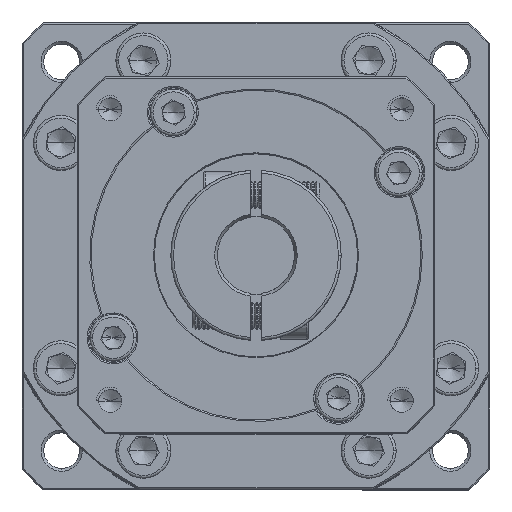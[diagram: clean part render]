
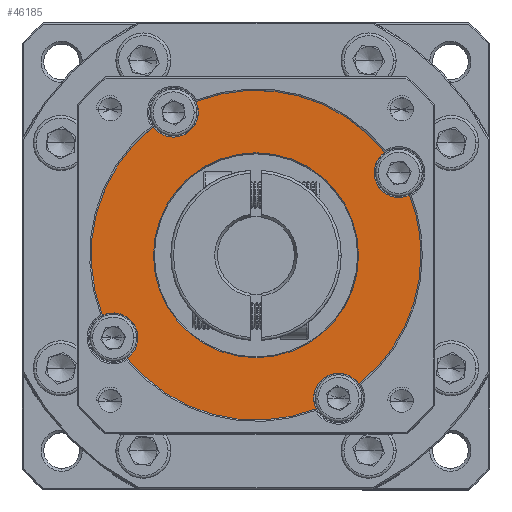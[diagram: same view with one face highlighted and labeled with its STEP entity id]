
A CAD part, top view. The second image highlights one B-rep face of the part: STEP entity #46185.
In plain terms, the highlighted planar face has unit normal (0, 0, 1).
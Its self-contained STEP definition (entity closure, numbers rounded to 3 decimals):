
#246 = CARTESIAN_POINT ( 'NONE',  ( -32.808, 56.745, -14.057 ) ) ;
#582 = EDGE_CURVE ( 'NONE', #37217, #73013, #26205, .T. ) ;
#719 = EDGE_CURVE ( 'NONE', #42660, #24522, #127793, .T. ) ;
#1705 = DIRECTION ( 'NONE',  ( 1., 0., 0. ) ) ;
#1932 = CARTESIAN_POINT ( 'NONE',  ( -9.363, 75.462, -14.057 ) ) ;
#3184 = AXIS2_PLACEMENT_3D ( 'NONE', #61424, #20518, #22217 ) ;
#4688 = DIRECTION ( 'NONE',  ( 1., 0., 0. ) ) ;
#5418 = EDGE_CURVE ( 'NONE', #37217, #33742, #19090, .T. ) ;
#5500 = CIRCLE ( 'NONE', #14590, 4.5 ) ;
#5971 = AXIS2_PLACEMENT_3D ( 'NONE', #87424, #117512, #4688 ) ;
#6294 = AXIS2_PLACEMENT_3D ( 'NONE', #246, #50457, #19973 ) ;
#10821 = VERTEX_POINT ( 'NONE', #22265 ) ;
#11052 = ORIENTED_EDGE ( 'NONE', *, *, #30852, .T. ) ;
#11721 = ORIENTED_EDGE ( 'NONE', *, *, #38755, .F. ) ;
#12598 = DIRECTION ( 'NONE',  ( 1., 0., 0. ) ) ;
#13786 = CARTESIAN_POINT ( 'NONE',  ( -43.753, 84.677, -14.057 ) ) ;
#14204 = DIRECTION ( 'NONE',  ( 1., 0., 0. ) ) ;
#14590 = AXIS2_PLACEMENT_3D ( 'NONE', #77074, #105932, #17274 ) ;
#15622 = DIRECTION ( 'NONE',  ( 1., 0., 0. ) ) ;
#15801 = CARTESIAN_POINT ( 'NONE',  ( -6.827, 71.745, -14.057 ) ) ;
#16061 = DIRECTION ( 'NONE',  ( 0., 0., -1. ) ) ;
#17274 = DIRECTION ( 'NONE',  ( 1., 0., 0. ) ) ;
#17505 = CARTESIAN_POINT ( 'NONE',  ( -43.308, 82.726, -14.057 ) ) ;
#17929 = ORIENTED_EDGE ( 'NONE', *, *, #31043, .T. ) ;
#18313 = AXIS2_PLACEMENT_3D ( 'NONE', #15801, #125539, #35921 ) ;
#18746 = CARTESIAN_POINT ( 'NONE',  ( -47.808, 82.726, -14.057 ) ) ;
#19090 = CIRCLE ( 'NONE', #123642, 4.5 ) ;
#19299 = CIRCLE ( 'NONE', #18313, 4.5 ) ;
#19368 = FACE_BOUND ( 'NONE', #121636, .T. ) ;
#19895 = ORIENTED_EDGE ( 'NONE', *, *, #77536, .F. ) ;
#19973 = DIRECTION ( 'NONE',  ( 1., 0., 0. ) ) ;
#20518 = DIRECTION ( 'NONE',  ( 0., 0., 1. ) ) ;
#22217 = DIRECTION ( 'NONE',  ( 1., 0., 0. ) ) ;
#22265 = CARTESIAN_POINT ( 'NONE',  ( -11.327, 71.745, -14.057 ) ) ;
#22471 = FACE_OUTER_BOUND ( 'NONE', #39215, .T. ) ;
#22971 = DIRECTION ( 'NONE',  ( 0., 0., 1. ) ) ;
#24047 = CIRCLE ( 'NONE', #109483, 4.5 ) ;
#24522 = VERTEX_POINT ( 'NONE', #41924 ) ;
#24683 = AXIS2_PLACEMENT_3D ( 'NONE', #37480, #16061, #15622 ) ;
#25578 = CARTESIAN_POINT ( 'NONE',  ( -32.808, 56.745, -14.057 ) ) ;
#26007 = DIRECTION ( 'NONE',  ( 1., 0., 0. ) ) ;
#26205 = CIRCLE ( 'NONE', #3184, 30. ) ;
#26880 = CARTESIAN_POINT ( 'NONE',  ( -32.808, 56.745, -14.057 ) ) ;
#28497 = AXIS2_PLACEMENT_3D ( 'NONE', #25578, #77076, #26007 ) ;
#30852 = EDGE_CURVE ( 'NONE', #24522, #42660, #86767, .T. ) ;
#31043 = EDGE_CURVE ( 'NONE', #61920, #111481, #122599, .T. ) ;
#33443 = CARTESIAN_POINT ( 'NONE',  ( -32.808, 56.745, -14.057 ) ) ;
#33742 = VERTEX_POINT ( 'NONE', #17505 ) ;
#35921 = DIRECTION ( 'NONE',  ( 1., 0., 0. ) ) ;
#36222 = CARTESIAN_POINT ( 'NONE',  ( -54.289, 41.745, -14.057 ) ) ;
#36482 = DIRECTION ( 'NONE',  ( 0., 0., 1. ) ) ;
#36931 = ORIENTED_EDGE ( 'NONE', *, *, #83150, .T. ) ;
#37217 = VERTEX_POINT ( 'NONE', #37250 ) ;
#37250 = CARTESIAN_POINT ( 'NONE',  ( -51.525, 80.19, -14.057 ) ) ;
#37480 = CARTESIAN_POINT ( 'NONE',  ( -32.808, 56.745, -14.057 ) ) ;
#38377 = DIRECTION ( 'NONE',  ( 0., 0., 1. ) ) ;
#38755 = EDGE_CURVE ( 'NONE', #10821, #111481, #5500, .T. ) ;
#39215 = EDGE_LOOP ( 'NONE', ( #119799, #84499, #42421, #122315, #36931, #17929, #11721, #62583, #42926, #19895, #55664, #83356, #55054 ) ) ;
#40790 = EDGE_CURVE ( 'NONE', #100746, #10821, #19299, .T. ) ;
#40862 = DIRECTION ( 'NONE',  ( 0., 0., 1. ) ) ;
#40886 = CARTESIAN_POINT ( 'NONE',  ( -22.308, 30.764, -14.057 ) ) ;
#41498 = AXIS2_PLACEMENT_3D ( 'NONE', #33443, #22971, #14204 ) ;
#41924 = CARTESIAN_POINT ( 'NONE',  ( -51.452, 56.745, -14.057 ) ) ;
#42421 = ORIENTED_EDGE ( 'NONE', *, *, #99564, .F. ) ;
#42660 = VERTEX_POINT ( 'NONE', #94914 ) ;
#42926 = ORIENTED_EDGE ( 'NONE', *, *, #91704, .T. ) ;
#43947 = DIRECTION ( 'NONE',  ( 1., 0., 0. ) ) ;
#46185 = ADVANCED_FACE ( 'NONE', ( #19368, #22471 ), #120132, .T. ) ;
#48849 = DIRECTION ( 'NONE',  ( 1., 0., 0. ) ) ;
#49462 = DIRECTION ( 'NONE',  ( 0., 0., 1. ) ) ;
#50457 = DIRECTION ( 'NONE',  ( 0., 0., 1. ) ) ;
#51884 = CIRCLE ( 'NONE', #41498, 30. ) ;
#55054 = ORIENTED_EDGE ( 'NONE', *, *, #67518, .F. ) ;
#55664 = ORIENTED_EDGE ( 'NONE', *, *, #5418, .F. ) ;
#57489 = CARTESIAN_POINT ( 'NONE',  ( -14.09, 33.3, -14.057 ) ) ;
#61424 = CARTESIAN_POINT ( 'NONE',  ( -32.808, 56.745, -14.057 ) ) ;
#61920 = VERTEX_POINT ( 'NONE', #69778 ) ;
#62371 = VERTEX_POINT ( 'NONE', #57489 ) ;
#62583 = ORIENTED_EDGE ( 'NONE', *, *, #40790, .F. ) ;
#63063 = CIRCLE ( 'NONE', #92185, 4.5 ) ;
#64374 = CIRCLE ( 'NONE', #5971, 4.5 ) ;
#64791 = CIRCLE ( 'NONE', #28497, 30. ) ;
#67518 = EDGE_CURVE ( 'NONE', #117629, #73013, #64374, .T. ) ;
#69176 = CARTESIAN_POINT ( 'NONE',  ( -47.808, 82.726, -14.057 ) ) ;
#69778 = CARTESIAN_POINT ( 'NONE',  ( -2.808, 56.745, -14.057 ) ) ;
#72417 = CARTESIAN_POINT ( 'NONE',  ( -32.808, 56.745, -14.057 ) ) ;
#72559 = AXIS2_PLACEMENT_3D ( 'NONE', #80848, #121873, #1705 ) ;
#73013 = VERTEX_POINT ( 'NONE', #128536 ) ;
#73758 = VERTEX_POINT ( 'NONE', #13786 ) ;
#73908 = EDGE_CURVE ( 'NONE', #120433, #125946, #64791, .T. ) ;
#76551 = DIRECTION ( 'NONE',  ( 1., 0., 0. ) ) ;
#76647 = DIRECTION ( 'NONE',  ( 1., 0., 0. ) ) ;
#77074 = CARTESIAN_POINT ( 'NONE',  ( -6.827, 71.745, -14.057 ) ) ;
#77076 = DIRECTION ( 'NONE',  ( 0., 0., 1. ) ) ;
#77536 = EDGE_CURVE ( 'NONE', #33742, #73758, #24047, .T. ) ;
#79320 = DIRECTION ( 'NONE',  ( 0., 0., 1. ) ) ;
#80848 = CARTESIAN_POINT ( 'NONE',  ( -32.808, 56.745, -14.057 ) ) ;
#81487 = CIRCLE ( 'NONE', #106400, 30. ) ;
#83150 = EDGE_CURVE ( 'NONE', #62371, #61920, #51884, .T. ) ;
#83356 = ORIENTED_EDGE ( 'NONE', *, *, #582, .T. ) ;
#84499 = ORIENTED_EDGE ( 'NONE', *, *, #73908, .T. ) ;
#86767 = CIRCLE ( 'NONE', #24683, 18.644 ) ;
#87424 = CARTESIAN_POINT ( 'NONE',  ( -58.789, 41.745, -14.057 ) ) ;
#89374 = DIRECTION ( 'NONE',  ( 1., 0., 0. ) ) ;
#89926 = CARTESIAN_POINT ( 'NONE',  ( -21.863, 28.813, -14.057 ) ) ;
#91092 = DIRECTION ( 'NONE',  ( 1., 0., 0. ) ) ;
#91512 = EDGE_CURVE ( 'NONE', #62371, #100736, #98799, .T. ) ;
#91704 = EDGE_CURVE ( 'NONE', #100746, #73758, #81487, .T. ) ;
#92185 = AXIS2_PLACEMENT_3D ( 'NONE', #121197, #40862, #91092 ) ;
#94914 = CARTESIAN_POINT ( 'NONE',  ( -14.164, 56.745, -14.057 ) ) ;
#97797 = AXIS2_PLACEMENT_3D ( 'NONE', #72417, #103861, #12598 ) ;
#98799 = CIRCLE ( 'NONE', #115595, 4.5 ) ;
#99564 = EDGE_CURVE ( 'NONE', #100736, #125946, #121891, .T. ) ;
#100736 = VERTEX_POINT ( 'NONE', #40886 ) ;
#100746 = VERTEX_POINT ( 'NONE', #1932 ) ;
#101803 = EDGE_CURVE ( 'NONE', #120433, #117629, #63063, .T. ) ;
#102036 = CARTESIAN_POINT ( 'NONE',  ( -17.808, 30.764, -14.057 ) ) ;
#103861 = DIRECTION ( 'NONE',  ( 0., 0., -1. ) ) ;
#105932 = DIRECTION ( 'NONE',  ( 0., 0., 1. ) ) ;
#106400 = AXIS2_PLACEMENT_3D ( 'NONE', #26880, #36482, #76647 ) ;
#108483 = CARTESIAN_POINT ( 'NONE',  ( -17.808, 30.764, -14.057 ) ) ;
#109128 = CARTESIAN_POINT ( 'NONE',  ( -56.253, 38.027, -14.057 ) ) ;
#109483 = AXIS2_PLACEMENT_3D ( 'NONE', #18746, #38377, #48849 ) ;
#111481 = VERTEX_POINT ( 'NONE', #117174 ) ;
#113419 = DIRECTION ( 'NONE',  ( 0., 0., 1. ) ) ;
#115595 = AXIS2_PLACEMENT_3D ( 'NONE', #102036, #113419, #43947 ) ;
#117174 = CARTESIAN_POINT ( 'NONE',  ( -4.876, 67.69, -14.057 ) ) ;
#117512 = DIRECTION ( 'NONE',  ( 0., 0., 1. ) ) ;
#117629 = VERTEX_POINT ( 'NONE', #36222 ) ;
#119799 = ORIENTED_EDGE ( 'NONE', *, *, #101803, .F. ) ;
#120132 = PLANE ( 'NONE',  #72559 ) ;
#120433 = VERTEX_POINT ( 'NONE', #109128 ) ;
#120535 = ORIENTED_EDGE ( 'NONE', *, *, #719, .T. ) ;
#121197 = CARTESIAN_POINT ( 'NONE',  ( -58.789, 41.745, -14.057 ) ) ;
#121636 = EDGE_LOOP ( 'NONE', ( #120535, #11052 ) ) ;
#121873 = DIRECTION ( 'NONE',  ( 0., 0., 1. ) ) ;
#121891 = CIRCLE ( 'NONE', #124538, 4.5 ) ;
#122315 = ORIENTED_EDGE ( 'NONE', *, *, #91512, .F. ) ;
#122599 = CIRCLE ( 'NONE', #6294, 30. ) ;
#123642 = AXIS2_PLACEMENT_3D ( 'NONE', #69176, #79320, #89374 ) ;
#124538 = AXIS2_PLACEMENT_3D ( 'NONE', #108483, #49462, #76551 ) ;
#125539 = DIRECTION ( 'NONE',  ( 0., 0., 1. ) ) ;
#125946 = VERTEX_POINT ( 'NONE', #89926 ) ;
#127793 = CIRCLE ( 'NONE', #97797, 18.644 ) ;
#128536 = CARTESIAN_POINT ( 'NONE',  ( -60.74, 45.8, -14.057 ) ) ;
